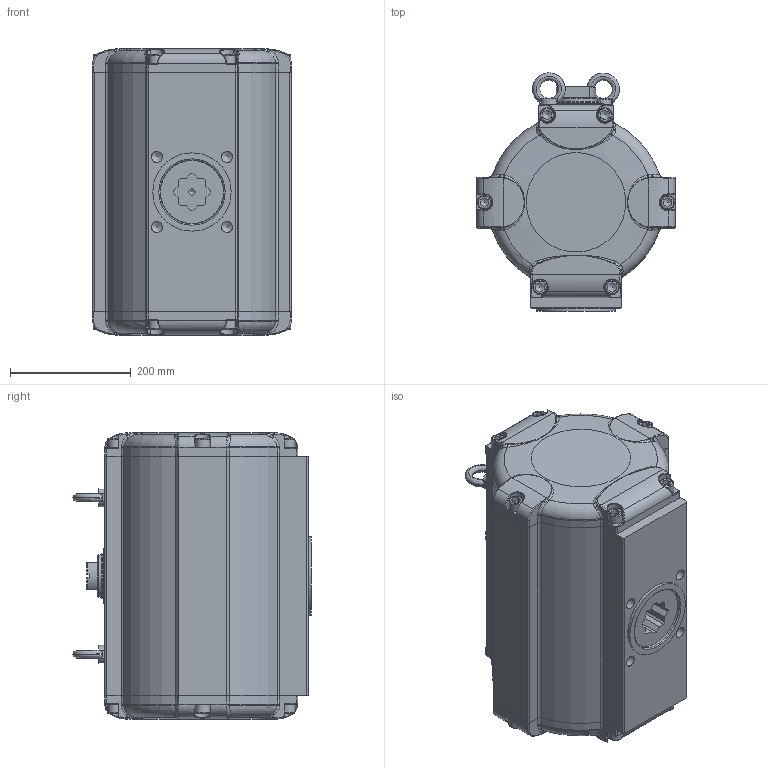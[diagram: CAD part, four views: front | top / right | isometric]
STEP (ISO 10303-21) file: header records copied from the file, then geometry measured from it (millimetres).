
FILE_DESCRIPTION((''),'2;1');
FILE_NAME('Y:\DOKUMENTATION ANTRIEBSPROGRAMM\AKTUELLES ANTRIEBSPROGRAMM\BR03_SAD_SAF_90°_Standard\STEP-Dateien\45\SAD 45 BR03.stp','2018-09-10T08:34:13',('mkl'),(''),'Autodesk Inventor 2013','Autodesk Inventor 2013','');
FILE_SCHEMA(('AUTOMOTIVE_DESIGN { 1 0 10303 214 1 1 1 1 }'));
Length unit declared in the file: millimetre
Products named in the file (1): ENG-074645_Shrinkwrap_1
Bounding box: 330 x 395 x 475 mm (x, y, z)
Surface area: 947727.8 mm2 (no closed solid volume)
Topology: 0 solids, 30 shells, 607 faces, 1936 edges, 1294 vertices
Faces by surface type: plane 224, bspline 166, cylinder 139, cone 39, torus 39
Full cylindrical faces by diameter (mm): 4.917 x5, 18.376 x4, 18.631 x2, 24 x12, 65 x1, 69.8 x1, 90 x1, 106 x1, 130 x1, 266 x1
Entity records: 35200 total; most frequent: CARTESIAN_POINT 19352, ORIENTED_EDGE 3030, DIRECTION 2762, EDGE_CURVE 1831, VERTEX_POINT 1261, AXIS2_PLACEMENT_3D 1089, EDGE_LOOP 738, FACE_OUTER_BOUND 607
